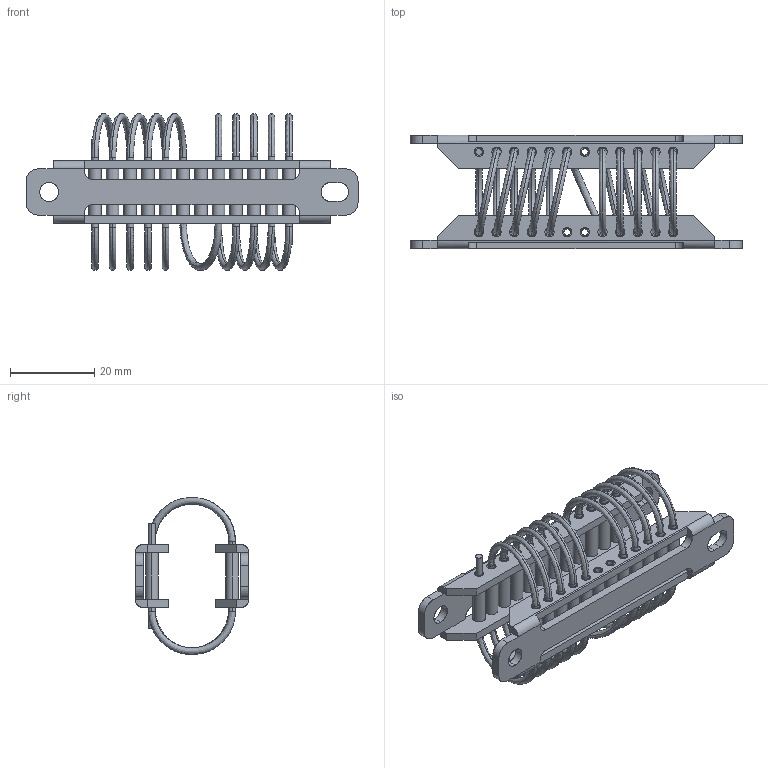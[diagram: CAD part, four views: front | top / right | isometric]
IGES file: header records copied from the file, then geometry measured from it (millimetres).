
Start section: SolidWorks IGES file using analytic representation for surfaces
Bounding box: 79 x 27.1 x 37.38 mm (x, y, z)
Surface area: 14664.3 mm2 (no closed solid volume)
Topology: 0 solids, 0 shells, 279 faces, 7230 edges, 7230 vertices
Faces by surface type: bspline 155, revolution 124
